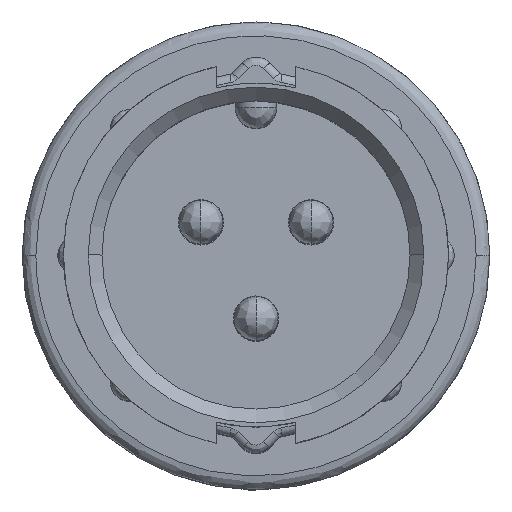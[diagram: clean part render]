
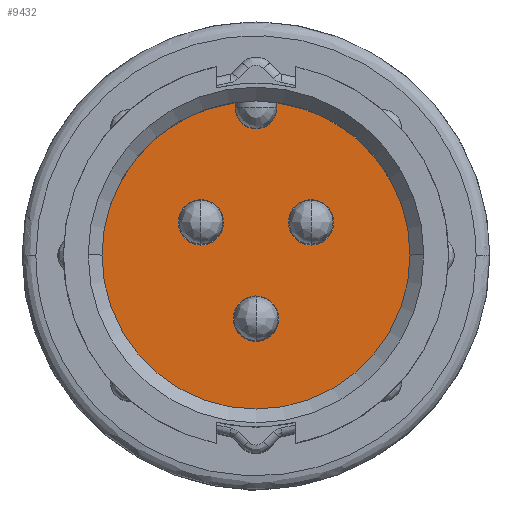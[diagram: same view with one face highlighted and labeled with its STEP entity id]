
A CAD part, top view. The second image highlights one B-rep face of the part: STEP entity #9432.
In plain terms, the highlighted planar face has unit normal (0, 0, 1).
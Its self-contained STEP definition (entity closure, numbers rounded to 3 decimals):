
#130 = ORIENTED_EDGE ( 'NONE', *, *, #15089, .F. ) ;
#221 = CARTESIAN_POINT ( 'NONE',  ( 0.825, -2.3, -9. ) ) ;
#300 = DIRECTION ( 'NONE',  ( 0., 1., 0. ) ) ;
#330 = CIRCLE ( 'NONE', #3241, 0.75 ) ;
#337 = CARTESIAN_POINT ( 'NONE',  ( -1.175, 1.2, -9. ) ) ;
#574 = EDGE_LOOP ( 'NONE', ( #25394, #1912 ) ) ;
#603 = ORIENTED_EDGE ( 'NONE', *, *, #19314, .T. ) ;
#1079 = CIRCLE ( 'NONE', #16686, 0.825 ) ;
#1121 = DIRECTION ( 'NONE',  ( 0., 0., 1. ) ) ;
#1392 = AXIS2_PLACEMENT_3D ( 'NONE', #22451, #6136, #8892 ) ;
#1468 = CARTESIAN_POINT ( 'NONE',  ( -0.75, -0.026, -9. ) ) ;
#1547 = EDGE_CURVE ( 'NONE', #16534, #9768, #12358, .T. ) ;
#1912 = ORIENTED_EDGE ( 'NONE', *, *, #7071, .F. ) ;
#2181 = AXIS2_PLACEMENT_3D ( 'NONE', #14799, #12344, #10048 ) ;
#2264 = EDGE_LOOP ( 'NONE', ( #14814, #130 ) ) ;
#2435 = LINE ( 'NONE', #11455, #18540 ) ;
#2754 = ORIENTED_EDGE ( 'NONE', *, *, #15097, .F. ) ;
#2915 = CARTESIAN_POINT ( 'NONE',  ( 0., -2.3, -9. ) ) ;
#3004 = DIRECTION ( 'NONE',  ( 1., 0., 0. ) ) ;
#3048 = VERTEX_POINT ( 'NONE', #27752 ) ;
#3241 = AXIS2_PLACEMENT_3D ( 'NONE', #23776, #27885, #7620 ) ;
#3408 = CARTESIAN_POINT ( 'NONE',  ( 2., 1.2, -9. ) ) ;
#3751 = FACE_BOUND ( 'NONE', #2264, .T. ) ;
#3856 = CARTESIAN_POINT ( 'NONE',  ( 1.175, 1.2, -9. ) ) ;
#4623 = DIRECTION ( 'NONE',  ( 0., 0., 1. ) ) ;
#5897 = FACE_BOUND ( 'NONE', #574, .T. ) ;
#6136 = DIRECTION ( 'NONE',  ( 0., 0., 1. ) ) ;
#6675 = CIRCLE ( 'NONE', #27582, 0.825 ) ;
#6944 = DIRECTION ( 'NONE',  ( 0., 0., 1. ) ) ;
#7071 = EDGE_CURVE ( 'NONE', #10623, #15673, #10200, .T. ) ;
#7501 = DIRECTION ( 'NONE',  ( 0., 0., 1. ) ) ;
#7620 = DIRECTION ( 'NONE',  ( 1., 0., 0. ) ) ;
#7811 = CIRCLE ( 'NONE', #24822, 5.6 ) ;
#8030 = EDGE_CURVE ( 'NONE', #15711, #17145, #1079, .T. ) ;
#8449 = ORIENTED_EDGE ( 'NONE', *, *, #8030, .F. ) ;
#8493 = DIRECTION ( 'NONE',  ( 1., 0., 0. ) ) ;
#8601 = DIRECTION ( 'NONE',  ( 1., 0., 0. ) ) ;
#8836 = VERTEX_POINT ( 'NONE', #19582 ) ;
#8892 = DIRECTION ( 'NONE',  ( 1., 0., 0. ) ) ;
#9118 = CIRCLE ( 'NONE', #10088, 0.825 ) ;
#9432 = ADVANCED_FACE ( 'NONE', ( #24638, #5897, #3751, #13073 ), #17948, .T. ) ;
#9694 = CARTESIAN_POINT ( 'NONE',  ( -0.825, -2.3, -9. ) ) ;
#9768 = VERTEX_POINT ( 'NONE', #27123 ) ;
#10048 = DIRECTION ( 'NONE',  ( 1., 0., 0. ) ) ;
#10088 = AXIS2_PLACEMENT_3D ( 'NONE', #2915, #7501, #21213 ) ;
#10200 = CIRCLE ( 'NONE', #14124, 0.825 ) ;
#10450 = CIRCLE ( 'NONE', #2181, 5.6 ) ;
#10623 = VERTEX_POINT ( 'NONE', #3856 ) ;
#11238 = LINE ( 'NONE', #1468, #11562 ) ;
#11455 = CARTESIAN_POINT ( 'NONE',  ( 0.75, -0.026, -9. ) ) ;
#11562 = VECTOR ( 'NONE', #18096, 1000. ) ;
#11685 = CARTESIAN_POINT ( 'NONE',  ( -0.75, 5.35, -9. ) ) ;
#12100 = DIRECTION ( 'NONE',  ( 1., 0., 0. ) ) ;
#12344 = DIRECTION ( 'NONE',  ( 0., 0., 1. ) ) ;
#12358 = CIRCLE ( 'NONE', #1392, 5.6 ) ;
#13011 = EDGE_CURVE ( 'NONE', #20941, #17530, #25798, .T. ) ;
#13070 = DIRECTION ( 'NONE',  ( 1., 0., 0. ) ) ;
#13073 = FACE_OUTER_BOUND ( 'NONE', #16674, .T. ) ;
#14124 = AXIS2_PLACEMENT_3D ( 'NONE', #23693, #6944, #16266 ) ;
#14127 = EDGE_CURVE ( 'NONE', #19019, #8836, #330, .T. ) ;
#14401 = CARTESIAN_POINT ( 'NONE',  ( 0., 0., -9. ) ) ;
#14776 = CARTESIAN_POINT ( 'NONE',  ( -2., 1.2, -9. ) ) ;
#14799 = CARTESIAN_POINT ( 'NONE',  ( 0., 0., -9. ) ) ;
#14814 = ORIENTED_EDGE ( 'NONE', *, *, #13011, .F. ) ;
#15089 = EDGE_CURVE ( 'NONE', #17530, #20941, #6675, .T. ) ;
#15097 = EDGE_CURVE ( 'NONE', #3048, #19019, #11238, .T. ) ;
#15353 = EDGE_CURVE ( 'NONE', #17145, #15711, #9118, .T. ) ;
#15369 = EDGE_LOOP ( 'NONE', ( #8449, #16348 ) ) ;
#15673 = VERTEX_POINT ( 'NONE', #25078 ) ;
#15675 = CARTESIAN_POINT ( 'NONE',  ( -2., 1.2, -9. ) ) ;
#15711 = VERTEX_POINT ( 'NONE', #221 ) ;
#15890 = AXIS2_PLACEMENT_3D ( 'NONE', #3408, #1121, #29000 ) ;
#16266 = DIRECTION ( 'NONE',  ( 1., 0., 0. ) ) ;
#16348 = ORIENTED_EDGE ( 'NONE', *, *, #15353, .F. ) ;
#16444 = EDGE_CURVE ( 'NONE', #15673, #10623, #26580, .T. ) ;
#16534 = VERTEX_POINT ( 'NONE', #21075 ) ;
#16674 = EDGE_LOOP ( 'NONE', ( #603, #29157, #22121, #19156, #25285, #2754 ) ) ;
#16686 = AXIS2_PLACEMENT_3D ( 'NONE', #29457, #22615, #8601 ) ;
#17056 = AXIS2_PLACEMENT_3D ( 'NONE', #14776, #23893, #3004 ) ;
#17145 = VERTEX_POINT ( 'NONE', #9694 ) ;
#17530 = VERTEX_POINT ( 'NONE', #22316 ) ;
#17684 = VERTEX_POINT ( 'NONE', #18512 ) ;
#17948 = PLANE ( 'NONE',  #27295 ) ;
#18096 = DIRECTION ( 'NONE',  ( 0., -1., 0. ) ) ;
#18512 = CARTESIAN_POINT ( 'NONE',  ( 0.75, 5.55, -9. ) ) ;
#18540 = VECTOR ( 'NONE', #300, 1000. ) ;
#19019 = VERTEX_POINT ( 'NONE', #11685 ) ;
#19156 = ORIENTED_EDGE ( 'NONE', *, *, #19795, .F. ) ;
#19314 = EDGE_CURVE ( 'NONE', #3048, #16534, #7811, .T. ) ;
#19582 = CARTESIAN_POINT ( 'NONE',  ( 0.75, 5.35, -9. ) ) ;
#19795 = EDGE_CURVE ( 'NONE', #8836, #17684, #2435, .T. ) ;
#20067 = DIRECTION ( 'NONE',  ( 0., 0., 1. ) ) ;
#20941 = VERTEX_POINT ( 'NONE', #337 ) ;
#21075 = CARTESIAN_POINT ( 'NONE',  ( -5.6, 0., -9. ) ) ;
#21213 = DIRECTION ( 'NONE',  ( 1., 0., 0. ) ) ;
#22121 = ORIENTED_EDGE ( 'NONE', *, *, #27131, .T. ) ;
#22316 = CARTESIAN_POINT ( 'NONE',  ( -2.825, 1.2, -9. ) ) ;
#22359 = CARTESIAN_POINT ( 'NONE',  ( -5.824, -5.825, -9. ) ) ;
#22451 = CARTESIAN_POINT ( 'NONE',  ( 0., 0., -9. ) ) ;
#22615 = DIRECTION ( 'NONE',  ( 0., 0., 1. ) ) ;
#23693 = CARTESIAN_POINT ( 'NONE',  ( 2., 1.2, -9. ) ) ;
#23776 = CARTESIAN_POINT ( 'NONE',  ( 0., 5.35, -9. ) ) ;
#23893 = DIRECTION ( 'NONE',  ( 0., 0., 1. ) ) ;
#24635 = DIRECTION ( 'NONE',  ( 0., 0., 1. ) ) ;
#24638 = FACE_BOUND ( 'NONE', #15369, .T. ) ;
#24822 = AXIS2_PLACEMENT_3D ( 'NONE', #14401, #4623, #12100 ) ;
#25078 = CARTESIAN_POINT ( 'NONE',  ( 2.825, 1.2, -9. ) ) ;
#25285 = ORIENTED_EDGE ( 'NONE', *, *, #14127, .F. ) ;
#25394 = ORIENTED_EDGE ( 'NONE', *, *, #16444, .F. ) ;
#25798 = CIRCLE ( 'NONE', #17056, 0.825 ) ;
#26580 = CIRCLE ( 'NONE', #15890, 0.825 ) ;
#27123 = CARTESIAN_POINT ( 'NONE',  ( 5.6, 0., -9. ) ) ;
#27131 = EDGE_CURVE ( 'NONE', #9768, #17684, #10450, .T. ) ;
#27295 = AXIS2_PLACEMENT_3D ( 'NONE', #22359, #20067, #8493 ) ;
#27582 = AXIS2_PLACEMENT_3D ( 'NONE', #15675, #24635, #13070 ) ;
#27752 = CARTESIAN_POINT ( 'NONE',  ( -0.75, 5.55, -9. ) ) ;
#27885 = DIRECTION ( 'NONE',  ( 0., 0., 1. ) ) ;
#29000 = DIRECTION ( 'NONE',  ( 1., 0., 0. ) ) ;
#29157 = ORIENTED_EDGE ( 'NONE', *, *, #1547, .T. ) ;
#29457 = CARTESIAN_POINT ( 'NONE',  ( 0., -2.3, -9. ) ) ;
